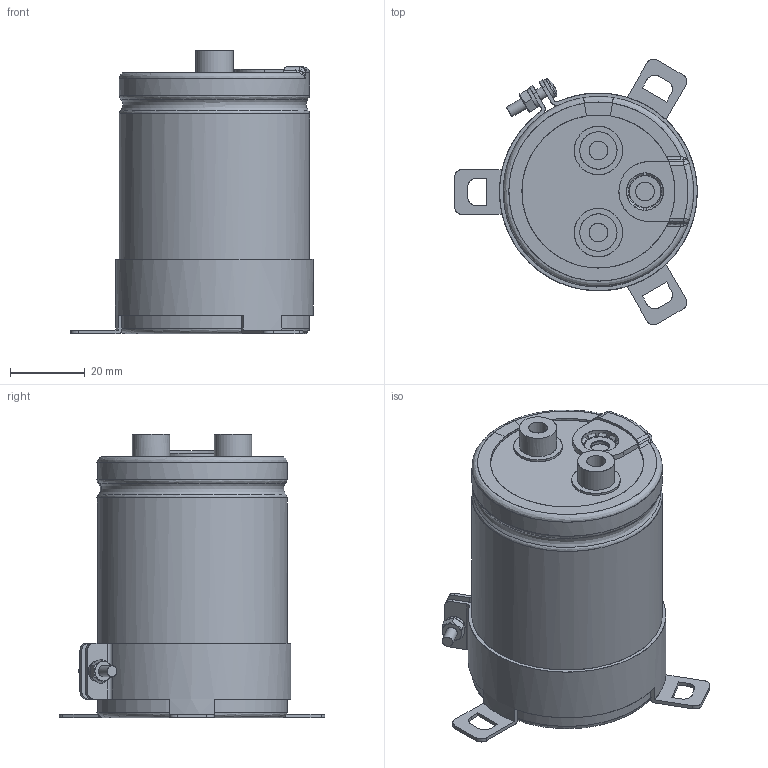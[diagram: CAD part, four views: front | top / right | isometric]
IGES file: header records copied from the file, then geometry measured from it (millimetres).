
Start section: JAMA-IS VERSION  1.0
Bounding box: 65 x 71.22 x 76 mm (x, y, z)
Surface area: 48136.1 mm2 (no closed solid volume)
Topology: 0 solids, 0 shells, 298 faces, 4625 edges, 4595 vertices
Faces by surface type: bspline 298
